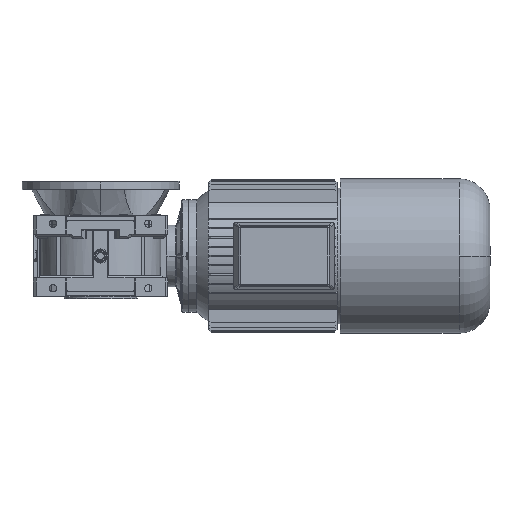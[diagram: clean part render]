
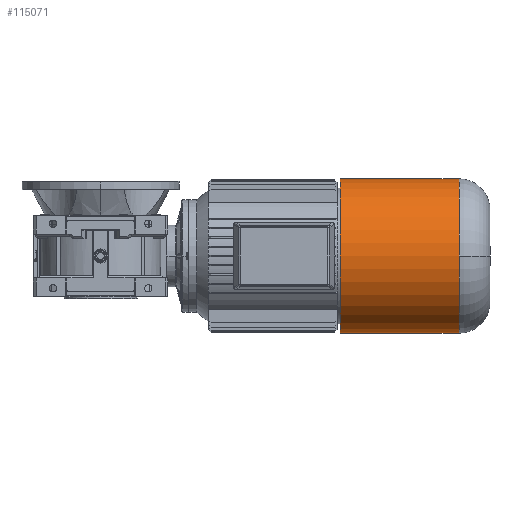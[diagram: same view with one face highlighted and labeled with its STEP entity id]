
A CAD part, front view. The second image highlights one B-rep face of the part: STEP entity #115071.
In plain terms, the highlighted cylindrical face has radius 137.5 mm (diameter 275 mm), a partial arc.
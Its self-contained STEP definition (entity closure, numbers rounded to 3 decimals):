
#115021=CARTESIAN_POINT('',(456.0,0.0,0.0));
#115022=DIRECTION('',(1.0,0.0,0.0));
#115023=DIRECTION('',(0.0,1.0,0.0));
#115024=AXIS2_PLACEMENT_3D('',#115021,#115022,#115023);
#115025=CYLINDRICAL_SURFACE('',#115024,137.5);
#115026=CARTESIAN_POINT('',(350.0,137.5,0.0));
#115027=VERTEX_POINT('',#115026);
#115028=CARTESIAN_POINT('',(562.0,137.5,0.0));
#115029=VERTEX_POINT('',#115028);
#115030=CARTESIAN_POINT('',(350.0,137.5,0.0));
#115031=DIRECTION('',(1.0,0.0,0.0));
#115032=VECTOR('',#115031,212.0);
#115033=LINE('',#115030,#115032);
#115034=EDGE_CURVE('',#115027,#115029,#115033,.T.);
#115035=ORIENTED_EDGE('',*,*,#115034,.F.);
#115036=CARTESIAN_POINT('',(350.0,-137.5,0.));
#115037=VERTEX_POINT('',#115036);
#115038=CARTESIAN_POINT('',(350.0,0.0,0.0));
#115039=DIRECTION('',(1.0,0.0,0.0));
#115040=DIRECTION('',(0.0,1.0,0.0));
#115041=AXIS2_PLACEMENT_3D('',#115038,#115039,#115040);
#115042=CIRCLE('',#115041,137.5);
#115043=EDGE_CURVE('',#115027,#115037,#115042,.T.);
#115044=ORIENTED_EDGE('',*,*,#115043,.T.);
#115045=CARTESIAN_POINT('',(562.0,-137.5,0.));
#115046=VERTEX_POINT('',#115045);
#115047=CARTESIAN_POINT('',(562.0,-137.5,0.));
#115048=DIRECTION('',(-1.0,0.0,0.0));
#115049=VECTOR('',#115048,212.0);
#115050=LINE('',#115047,#115049);
#115051=EDGE_CURVE('',#115046,#115037,#115050,.T.);
#115052=ORIENTED_EDGE('',*,*,#115051,.F.);
#115053=CARTESIAN_POINT('',(562.0,0.,137.5));
#115054=VERTEX_POINT('',#115053);
#115055=CARTESIAN_POINT('',(562.0,0.0,0.0));
#115056=DIRECTION('',(1.0,0.0,0.0));
#115057=DIRECTION('',(0.0,1.0,0.0));
#115058=AXIS2_PLACEMENT_3D('',#115055,#115056,#115057);
#115059=CIRCLE('',#115058,137.5);
#115060=EDGE_CURVE('',#115054,#115046,#115059,.T.);
#115061=ORIENTED_EDGE('',*,*,#115060,.F.);
#115062=CARTESIAN_POINT('',(562.0,0.0,0.0));
#115063=DIRECTION('',(1.0,0.0,0.0));
#115064=DIRECTION('',(0.0,1.0,0.0));
#115065=AXIS2_PLACEMENT_3D('',#115062,#115063,#115064);
#115066=CIRCLE('',#115065,137.5);
#115067=EDGE_CURVE('',#115029,#115054,#115066,.T.);
#115068=ORIENTED_EDGE('',*,*,#115067,.F.);
#115069=EDGE_LOOP('',(#115035,#115044,#115052,#115061,#115068));
#115070=FACE_OUTER_BOUND('',#115069,.T.);
#115071=ADVANCED_FACE('',(#115070),#115025,.T.);
